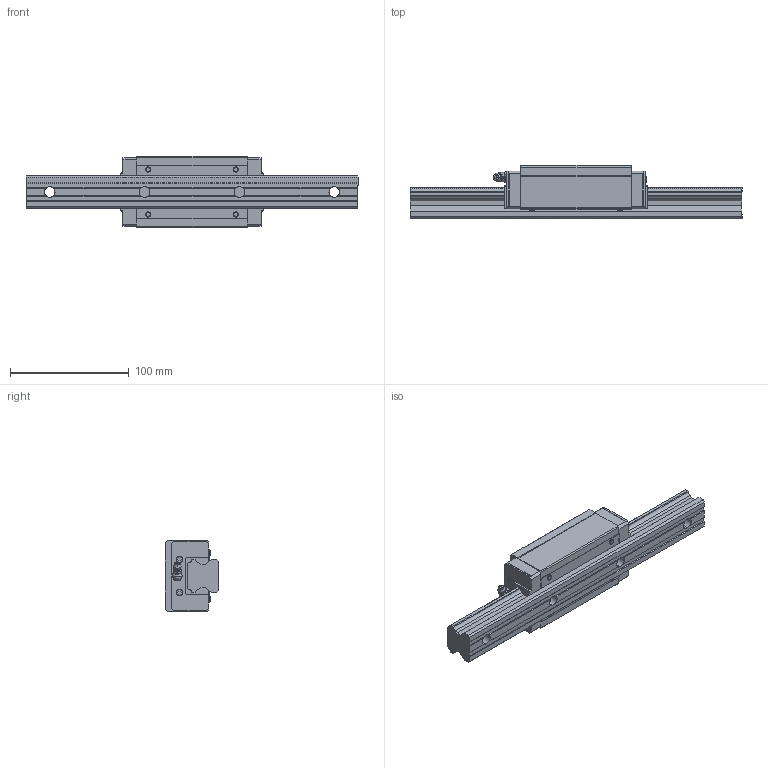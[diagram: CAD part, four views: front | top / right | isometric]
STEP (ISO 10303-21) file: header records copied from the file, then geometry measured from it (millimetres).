
FILE_DESCRIPTION (( 'STEP AP203' ), '1' );
FILE_NAME ('HSR30LRSSC.STEP', '2016-03-29T11:26:11', ( 'EOS' ), ( '' ), 'SwSTEP 2.0', 'SolidWorks 2016', '' );
FILE_SCHEMA (( 'CONFIG_CONTROL_DESIGN' ));
Length unit declared in the file: millimetre
Products named in the file (4): 1; 3; HSR30LRSSC; 2_1
Assembly tree (3 placements, depth 2):
  HSR30LRSSC
    1
    2_1
    3
Bounding box: 280 x 45 x 60 mm (x, y, z)
Volume: 361609.5 mm3; surface area: 68545.5 mm2
Topology: 3 solids, 3 shells, 317 faces, 837 edges, 532 vertices
Faces by surface type: plane 200, cylinder 56, cone 36, bspline 25
Entity records: 10495 total; most frequent: CARTESIAN_POINT 2424, ORIENTED_EDGE 1642, DIRECTION 1538, EDGE_CURVE 821, LINE 562, VECTOR 562, VERTEX_POINT 532, AXIS2_PLACEMENT_3D 488
